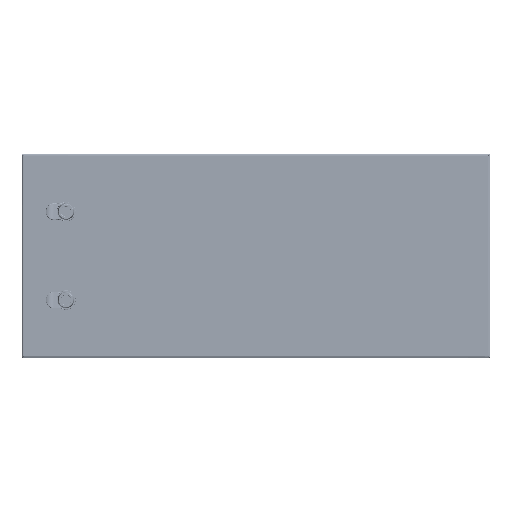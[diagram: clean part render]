
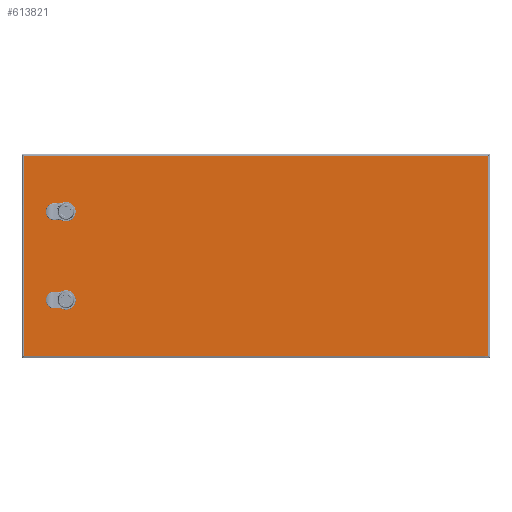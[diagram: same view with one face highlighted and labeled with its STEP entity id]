
A CAD part, top view. The second image highlights one B-rep face of the part: STEP entity #613821.
In plain terms, the highlighted planar face has unit normal (0, 0, 1).
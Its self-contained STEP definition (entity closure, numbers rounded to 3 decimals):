
#607951=CARTESIAN_POINT(' ',(389.389,172.733,269.003));
#607952=VERTEX_POINT(' ',#607951);
#608616=CARTESIAN_POINT(' ',(389.389,-166.667,269.003));
#608617=VERTEX_POINT(' ',#608616);
#609461=CARTESIAN_POINT(' ',(389.389,172.733,269.003));
#609466=DIRECTION(' ',(0.,-1.,0.));
#609471=VECTOR(' ',#609466,1.);
#609476=LINE('',#609461,#609471);
#609481=EDGE_CURVE(' ',#607952,#608617,#609476,.T.);
#611466=CARTESIAN_POINT(' ',(-399.011,-166.667,269.003));
#611467=VERTEX_POINT(' ',#611466);
#612006=CARTESIAN_POINT(' ',(-399.011,172.733,269.003));
#612007=VERTEX_POINT(' ',#612006);
#613691=DIRECTION(' ',(-0.,-0.,1.));
#613696=CARTESIAN_POINT(' ',(389.389,-166.667,269.003));
#613701=DIRECTION(' ',(0.,1.,0.));
#613706=AXIS2_PLACEMENT_3D(' ',#613696,#613691,#613701);
#613711=PLANE('NONE',#613706);
#613716=CARTESIAN_POINT(' ',(-399.011,-166.667,269.003));
#613721=DIRECTION(' ',(1.,0.,0.));
#613726=VECTOR(' ',#613721,1.);
#613731=LINE('',#613716,#613726);
#613736=EDGE_CURVE(' ',#611467,#608617,#613731,.T.);
#613741=ORIENTED_EDGE(' ',*,*,#613736,.T.);
#613746=ORIENTED_EDGE(' ',*,*,#609481,.F.);
#613751=CARTESIAN_POINT(' ',(389.389,172.733,269.003));
#613756=DIRECTION(' ',(-1.,0.,0.));
#613761=VECTOR(' ',#613756,1.);
#613766=LINE('',#613751,#613761);
#613771=EDGE_CURVE(' ',#607952,#612007,#613766,.T.);
#613776=ORIENTED_EDGE(' ',*,*,#613771,.T.);
#613781=CARTESIAN_POINT(' ',(-399.011,172.733,269.003));
#613786=DIRECTION(' ',(0.,-1.,0.));
#613791=VECTOR(' ',#613786,1.);
#613796=LINE('',#613781,#613791);
#613801=EDGE_CURVE(' ',#612007,#611467,#613796,.T.);
#613806=ORIENTED_EDGE(' ',*,*,#613801,.T.);
#613811=EDGE_LOOP(' ',(#613741,#613746,#613776,#613806));
#613816=FACE_OUTER_BOUND(' ',#613811,.T.);
#613821=ADVANCED_FACE('NONE',(#613816),#613711,.T.);
